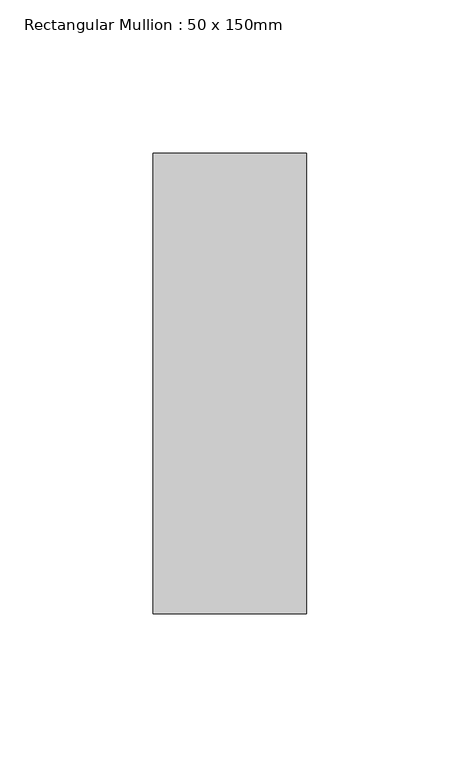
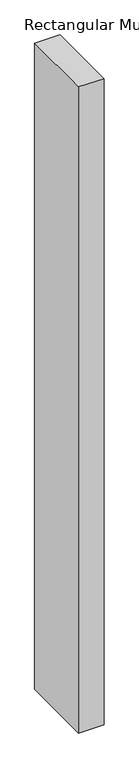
"""IFC4 building model written with IfcOpenShell, lengths in millimetres: member geometry, Rectangular Mullion : 50 x 150mm."""

from ifc_helpers import new_model, si_unit, frame, origin, place, context, project, spatial, polyline, outline, extrude, source, transform, mapped, element, save


def rectangular_mullion_50_x_150mm_d49d4e0b(model_context):
    return source(origin(), model_context, "Body", "SweptSolid", [
        extrude(outline(polyline([(0.0, 75.0), (0.0, -75.0), (-50.0, -75.0), (-50.0, 75.0), (0.0, 75.0)])), frame((0.0, 0.0, -1347.4000001), z_axis=(0.0, 0.0, 1.0), x_axis=(1.0, 0.0, 0.0)), (0.0, 0.0, 1.0), 1347.4000001),
    ])


if __name__ == "__main__":
    model = new_model("IFC4")
    model_context = context("Model", 3, world=origin())
    ifc_project = project(units=[si_unit("LENGTHUNIT", "METRE", prefix="MILLI")], contexts=[model_context])
    site = spatial("IfcSite", under=ifc_project)
    building = spatial("IfcBuilding", under=site)
    placement = place(None, origin())
    rectangular_mullion_50_x_150mm_shape = rectangular_mullion_50_x_150mm_d49d4e0b(model_context)
    element("IfcMember", 1, ObjectType="Rectangular Mullion : 50 x 150mm", at=placement, inside=building, context=model_context, shape_type="MappedRepresentation", body=[
        mapped(rectangular_mullion_50_x_150mm_shape, transform((0.0, 0.0, 0.0), x_axis=(1.0, 0.0, 0.0), y_axis=(0.0, 1.0, 0.0), z_axis=(0.0, 0.0, 1.0))),
    ])
    save(model, "model.ifc")
